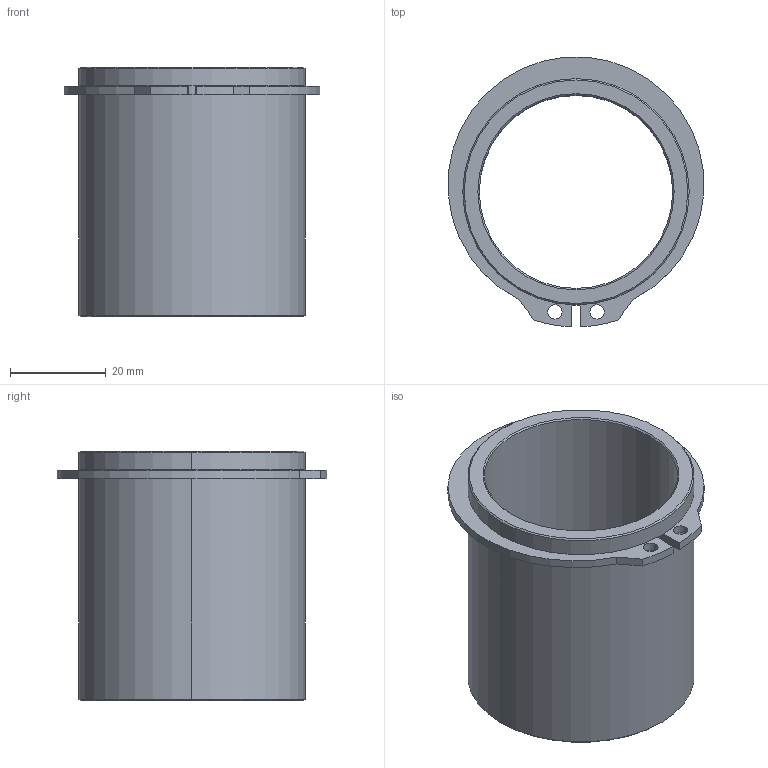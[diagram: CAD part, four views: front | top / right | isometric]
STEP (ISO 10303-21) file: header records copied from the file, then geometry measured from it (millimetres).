
FILE_DESCRIPTION((''),'2;1');
FILE_NAME('C13_040_052.stp','2008-12-17T16:05:13',(''),(''),'Mechanical Desktop 2009','Mechanical Desktop 2009',', , ');
FILE_SCHEMA(('CONFIG_CONTROL_DESIGN'));
Length unit declared in the file: millimetre
Products named in the file (2): Product; blmdl1
Assembly tree (1 placements, depth 2):
  Product
    blmdl1
Bounding box: 53.33 x 56.26 x 52 mm (x, y, z)
Volume: 25571.5 mm3; surface area: 17350.5 mm2
Topology: 2 solids, 2 shells, 34 faces, 76 edges, 48 vertices
Faces by surface type: cylinder 16, plane 10, cone 8
Entity records: 1075 total; most frequent: DIRECTION 188, CARTESIAN_POINT 160, ORIENTED_EDGE 152, AXIS2_PLACEMENT_3D 76, EDGE_CURVE 76, VERTEX_POINT 48, EDGE_LOOP 42, CIRCLE 40
